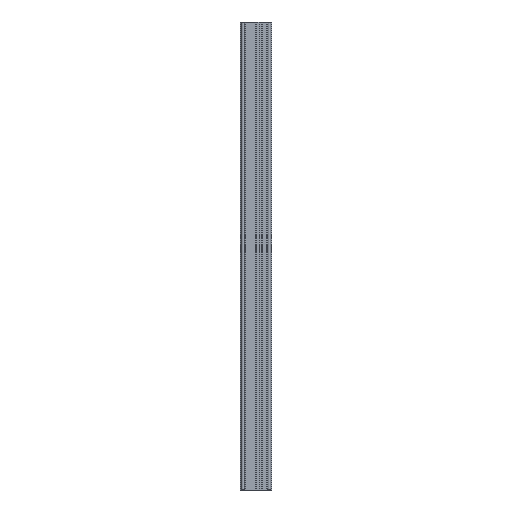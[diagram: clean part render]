
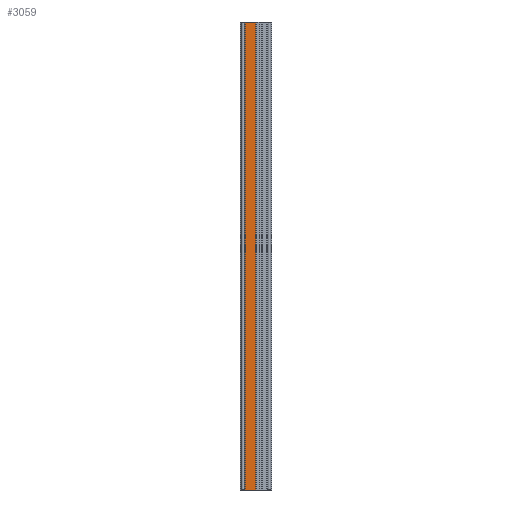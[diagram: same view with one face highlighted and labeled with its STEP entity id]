
A CAD part, left-side view. The second image highlights one B-rep face of the part: STEP entity #3059.
In plain terms, the highlighted planar face has unit normal (-1, 0, 0).
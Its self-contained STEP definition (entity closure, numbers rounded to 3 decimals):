
#3028 = VERTEX_POINT ( 'NONE', #6517 ) ;
#3029 = ORIENTED_EDGE ( 'NONE', *, *, #3227, .T. ) ;
#3059 = ADVANCED_FACE ( 'NONE', ( #6395 ), #6394, .T. ) ;
#3060 = EDGE_LOOP ( 'NONE', ( #3061, #3187, #3029, #3228 ) ) ;
#3061 = ORIENTED_EDGE ( 'NONE', *, *, #3062, .F. ) ;
#3062 = EDGE_CURVE ( 'NONE', #3226, #3201, #6389, .T. ) ;
#3187 = ORIENTED_EDGE ( 'NONE', *, *, #3188, .F. ) ;
#3188 = EDGE_CURVE ( 'NONE', #3028, #3226, #6556, .T. ) ;
#3201 = VERTEX_POINT ( 'NONE', #6678 ) ;
#3203 = EDGE_CURVE ( 'NONE', #3204, #3201, #6677, .T. ) ;
#3204 = VERTEX_POINT ( 'NONE', #6673 ) ;
#3226 = VERTEX_POINT ( 'NONE', #6698 ) ;
#3227 = EDGE_CURVE ( 'NONE', #3028, #3204, #6697, .T. ) ;
#3228 = ORIENTED_EDGE ( 'NONE', *, *, #3203, .T. ) ;
#6386 = DIRECTION ( 'NONE',  ( 0., -1., 0. ) ) ;
#6387 = VECTOR ( 'NONE', #6386, 1000. ) ;
#6388 = CARTESIAN_POINT ( 'NONE',  ( -40., 40.3, 599. ) ) ;
#6389 = LINE ( 'NONE', #6388, #6387 ) ;
#6390 = DIRECTION ( 'NONE',  ( 0., -1., 0. ) ) ;
#6391 = DIRECTION ( 'NONE',  ( -1., 0., 0. ) ) ;
#6392 = CARTESIAN_POINT ( 'NONE',  ( -40., 40.3, -599. ) ) ;
#6393 = AXIS2_PLACEMENT_3D ( 'NONE', #6392, #6391, #6390 ) ;
#6394 = PLANE ( 'NONE',  #6393 ) ;
#6395 = FACE_OUTER_BOUND ( 'NONE', #3060, .T. ) ;
#6517 = CARTESIAN_POINT ( 'NONE',  ( -40., 67.222, -599. ) ) ;
#6553 = DIRECTION ( 'NONE',  ( 0., 0., 1. ) ) ;
#6554 = VECTOR ( 'NONE', #6553, 1000. ) ;
#6555 = CARTESIAN_POINT ( 'NONE',  ( -40., 67.222, -599. ) ) ;
#6556 = LINE ( 'NONE', #6555, #6554 ) ;
#6673 = CARTESIAN_POINT ( 'NONE',  ( -40., 40.3, -599. ) ) ;
#6674 = DIRECTION ( 'NONE',  ( 0., 0., 1. ) ) ;
#6675 = VECTOR ( 'NONE', #6674, 1000. ) ;
#6676 = CARTESIAN_POINT ( 'NONE',  ( -40., 40.3, -599. ) ) ;
#6677 = LINE ( 'NONE', #6676, #6675 ) ;
#6678 = CARTESIAN_POINT ( 'NONE',  ( -40., 40.3, 599. ) ) ;
#6694 = DIRECTION ( 'NONE',  ( 0., -1., 0. ) ) ;
#6695 = VECTOR ( 'NONE', #6694, 1000. ) ;
#6696 = CARTESIAN_POINT ( 'NONE',  ( -40., 40.3, -599. ) ) ;
#6697 = LINE ( 'NONE', #6696, #6695 ) ;
#6698 = CARTESIAN_POINT ( 'NONE',  ( -40., 67.222, 599. ) ) ;
